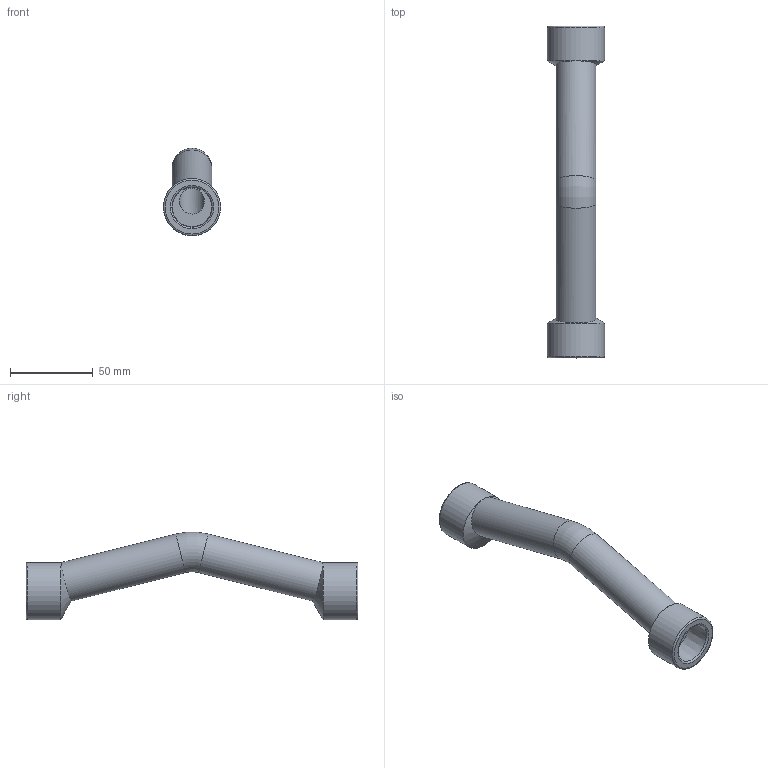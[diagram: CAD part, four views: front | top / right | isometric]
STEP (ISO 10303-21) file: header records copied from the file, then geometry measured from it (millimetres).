
FILE_DESCRIPTION(('STEP AP203'), '1');
FILE_NAME('ÂÐ.747111.021 - VTp.776.L.025', '', ('UNSPECIFIED'), ('UNSPECIFIED'), 'C3D Converter', 'C3D Toolkit', '');
FILE_SCHEMA(('CONFIG_CONTROL_DESIGN'));
Length unit declared in the file: millimetre
Products named in the file (1): ВР.747111.021
Bounding box: 34.5 x 200 x 52.74 mm (x, y, z)
Volume: 69610.8 mm3; surface area: 29416.4 mm2
Topology: 1 solids, 1 shells, 20 faces, 39 edges, 23 vertices
Faces by surface type: cylinder 6, torus 6, plane 4, cone 4
Full cylindrical faces by diameter (mm): 15 x2, 24 x2, 34.5 x2
Entity records: 687 total; most frequent: CARTESIAN_POINT 296, DIRECTION 76, ORIENTED_EDGE 46, EDGE_LOOP 40, AXIS2_PLACEMENT_3D 38, FACE_OUTER_BOUND 26, EDGE_CURVE 23, VERTEX_POINT 23
